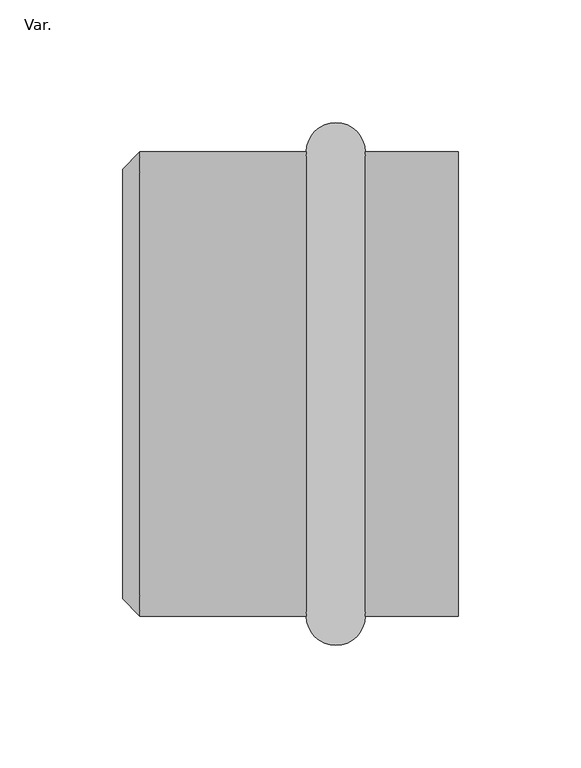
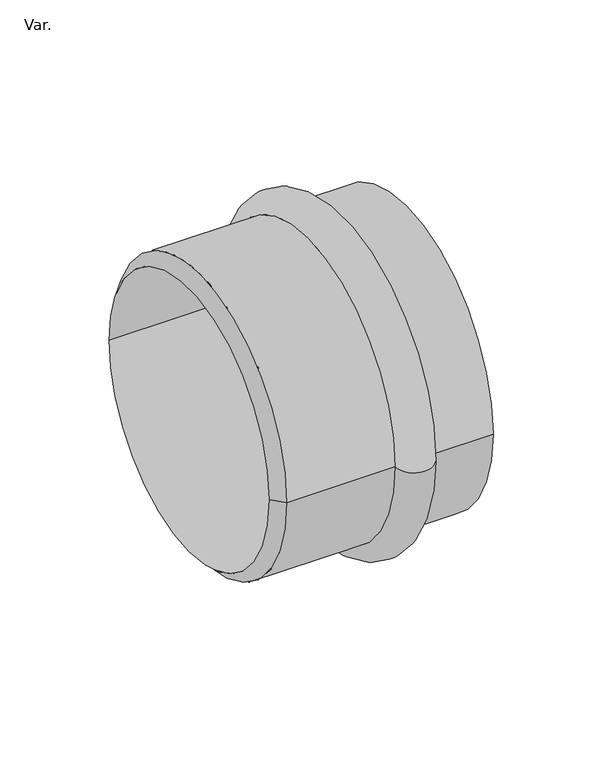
"""IFC4 building model written with IfcOpenShell, lengths in millimetres: pipe fitting geometry, AmancoWavin_UnionesDeTuberia_AwwaC900CampanaB : Var.."""

from ifc_helpers import new_model, si_unit, point, frame, origin, place, context, project, spatial, polyline, circle_curve, ellipse_curve, trimmed, source, transform, mapped, element, save
from ifc_brep_helpers import plane_surface, cylinder_surface, revolved_surface, advanced_brep


def var_f811d76c(model_context):
    return source(origin(), model_context, "Body", "AdvancedBrep", [
        advanced_brep(
        [(-130.0, -94.66, 0.0), (-130.0, 94.66, 0.0), (-62.0, 94.66, 0.0), (-62.0, -94.66, 0.0), (-137.01, -87.65, 0.0), (-137.01, 87.65, 0.0), (0.0, -87.65, 0.0), (0.0, 87.65, 0.0), (0.0, -94.66, 0.0), (0.0, 94.66, 0.0), (-38.0, -94.66, 0.0), (-38.0, 94.66, 0.0)],
        [
            (0, 1, circle_curve(frame((-130.0, 0.0, 0.0), z_axis=(1.0, 0.0, 0.0), x_axis=(0.0, 1.0, 0.0)), 94.66)),
            (1, 2),
            (2, 3, circle_curve(frame((-62.0, 0.0, 0.0), z_axis=(-1.0, 0.0, 0.0), x_axis=(0.0, 1.0, 0.0)), 94.66)),
            (3, 0),
            (1, 0, circle_curve(frame((-130.0, 0.0, 0.0), z_axis=(1.0, 0.0, 0.0), x_axis=(0.0, 1.0, 0.0)), 94.66)),
            (3, 2, circle_curve(frame((-62.0, 0.0, 0.0), z_axis=(-1.0, 0.0, 0.0), x_axis=(0.0, 1.0, 0.0)), 94.66)),
            (4, 5, circle_curve(frame((-137.01, 0.0, 0.0), z_axis=(1.0, 0.0, 0.0), x_axis=(0.0, 1.0, 0.0)), 87.65)),
            (5, 1),
            (0, 4),
            (5, 4, circle_curve(frame((-137.01, 0.0, 0.0), z_axis=(1.0, 0.0, 0.0), x_axis=(0.0, 1.0, 0.0)), 87.65)),
            (6, 7, circle_curve(frame((0.0, 0.0, 0.0), z_axis=(1.0, 0.0, 0.0), x_axis=(0.0, 1.0, 0.0)), 87.65)),
            (7, 5),
            (4, 6),
            (7, 6, circle_curve(frame((0.0, 0.0, 0.0), z_axis=(1.0, 0.0, 0.0), x_axis=(0.0, 1.0, 0.0)), 87.65)),
            (8, 9, circle_curve(frame((0.0, 0.0, 0.0), z_axis=(1.0, 0.0, 0.0), x_axis=(0.0, 1.0, 0.0)), 94.66)),
            (9, 7),
            (6, 8),
            (9, 8, circle_curve(frame((0.0, 0.0, 0.0), z_axis=(1.0, 0.0, 0.0), x_axis=(0.0, 1.0, 0.0)), 94.66)),
            (10, 11, circle_curve(frame((-38.0, 0.0, 0.0), z_axis=(1.0, 0.0, 0.0), x_axis=(0.0, 1.0, 0.0)), 94.66)),
            (11, 9),
            (8, 10),
            (11, 10, circle_curve(frame((-38.0, 0.0, 0.0), z_axis=(1.0, 0.0, 0.0), x_axis=(0.0, 1.0, 0.0)), 94.66)),
            (2, 11, circle_curve(frame((-50.0, 94.66, 0.0), z_axis=(0.0, 0.0, -1.0), x_axis=(1.0, 0.0, 0.0)), 12.0)),
            (10, 3, circle_curve(frame((-50.0, -94.66, 0.0), z_axis=(0.0, 0.0, -1.0), x_axis=(1.0, 0.0, 0.0)), 12.0)),
        ],
        [
            cylinder_surface(frame((1820.0, 0.0, 0.0), z_axis=(-1.0, 0.0, 0.0), x_axis=(0.0, 1.0, 0.0)), 94.66),
            revolved_surface(polyline([(-130.0, 94.66, 0.0), (-137.01, 87.65, 0.0)]), (1820.0, 0.0, 0.0), (-1.0, 0.0, 0.0)),
            revolved_surface(polyline([(-137.01, 87.65, 0.0), (0.0, 87.65, 0.0)]), (1820.0, 0.0, 0.0), (-1.0, 0.0, 0.0)),
            plane_surface(frame((0.0, 0.0, 0.0), z_axis=(1.0, 0.0, 0.0), x_axis=(0.0, 1.0, 0.0))),
            revolved_surface(trimmed(ellipse_curve(frame((-50.0, 94.66, 0.0), z_axis=(0.0, 0.0, 1.0), x_axis=(1.0, 0.0, 0.0)), 12.0, 12.0), [point((-38.0, 94.66, 0.0))], [point((-62.0, 94.66, 0.0))], True, "CARTESIAN"), (1820.0, 0.0, 0.0), (-1.0, 0.0, 0.0)),
        ],
        [
            (0, [[1, 2, 3, 4]]),
            (0, [[5, -4, 6, -2]]),
            (1, [[7, 8, -1, 9]]),
            (1, [[10, -9, -5, -8]]),
            (2, [[11, 12, -7, 13]]),
            (2, [[14, -13, -10, -12]]),
            (3, [[15, 16, -11, 17]]),
            (3, [[18, -17, -14, -16]]),
            (0, [[19, 20, -15, 21]]),
            (0, [[22, -21, -18, -20]]),
            (4, [[-3, 23, -19, 24]]),
            (4, [[-6, -24, -22, -23]]),
        ],
    ),
    ])


if __name__ == "__main__":
    model = new_model("IFC4")
    model_context = context("Model", 3, world=origin())
    ifc_project = project(units=[si_unit("LENGTHUNIT", "METRE", prefix="MILLI")], contexts=[model_context])
    site = spatial("IfcSite", under=ifc_project)
    building = spatial("IfcBuilding", under=site)
    placement = place(None, origin())
    var_shape = var_f811d76c(model_context)
    element("IfcPipeFitting", 1, ObjectType="AmancoWavin_UnionesDeTuberia_AwwaC900CampanaB : Var.", at=placement, inside=building, context=model_context, shape_type="MappedRepresentation", body=[
        mapped(var_shape, transform((0.0, 0.0, 0.0), x_axis=(1.0, 0.0, 0.0), y_axis=(0.0, 1.0, 0.0), z_axis=(0.0, 0.0, 1.0))),
    ])
    save(model, "model.ifc")
